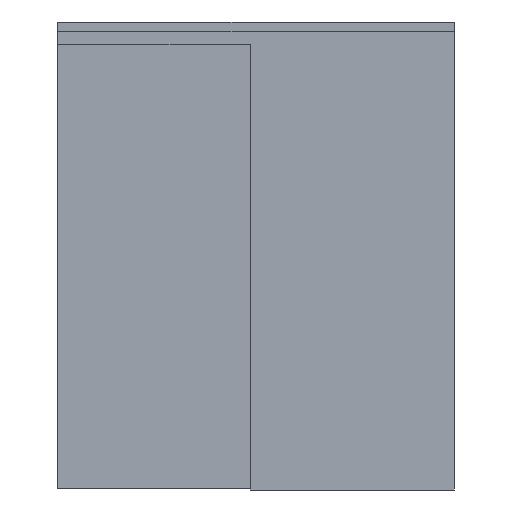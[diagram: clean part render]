
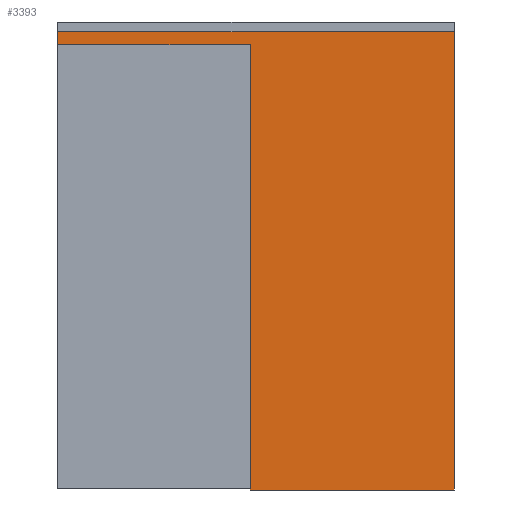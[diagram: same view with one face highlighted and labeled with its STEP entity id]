
A CAD part, front view. The second image highlights one B-rep face of the part: STEP entity #3393.
In plain terms, the highlighted planar face has unit normal (0, -1, 0).
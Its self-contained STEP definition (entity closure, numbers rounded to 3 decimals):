
#3393=ADVANCED_FACE('',(#6909),#6910,.F.);
#6909=FACE_OUTER_BOUND('',#10448,.T.);
#6910=PLANE('',#10449);
#10448=EDGE_LOOP('',(#19709,#19710,#19711,#19712,#19713,#19714));
#10449=AXIS2_PLACEMENT_3D('',#19715,#19716,#19717);
#19709=ORIENTED_EDGE('',*,*,#24473,.T.);
#19710=ORIENTED_EDGE('',*,*,#24463,.F.);
#19711=ORIENTED_EDGE('',*,*,#24467,.F.);
#19712=ORIENTED_EDGE('',*,*,#24471,.T.);
#19713=ORIENTED_EDGE('',*,*,#24474,.F.);
#19714=ORIENTED_EDGE('',*,*,#24475,.F.);
#19715=CARTESIAN_POINT('',(0.0,-44.,2333.0));
#19716=DIRECTION('',(0.0,1.0,-0.0));
#19717=DIRECTION('',(0.0,0.0,1.0));
#24463=EDGE_CURVE('',#30027,#30022,#30029,.T.);
#24467=EDGE_CURVE('',#30033,#30027,#30035,.T.);
#24471=EDGE_CURVE('',#30033,#30039,#30041,.T.);
#24473=EDGE_CURVE('',#30043,#30022,#30044,.T.);
#24474=EDGE_CURVE('',#30045,#30039,#30046,.T.);
#24475=EDGE_CURVE('',#30043,#30045,#30047,.T.);
#30022=VERTEX_POINT('',#37575);
#30027=VERTEX_POINT('',#37582);
#30029=LINE('',#37585,#37586);
#30033=VERTEX_POINT('',#37591);
#30035=LINE('',#37594,#37595);
#30039=VERTEX_POINT('',#37600);
#30041=LINE('',#37603,#37604);
#30043=VERTEX_POINT('',#37606);
#30044=LINE('',#37607,#37608);
#30045=VERTEX_POINT('',#37609);
#30046=LINE('',#37610,#37611);
#30047=LINE('',#37612,#37613);
#37575=CARTESIAN_POINT('',(995.0,-44.,2301.0));
#37582=CARTESIAN_POINT('',(995.0,-44.,0.0));
#37585=CARTESIAN_POINT('',(995.0,-44.,7.0));
#37586=VECTOR('',#42938,1.0);
#37591=CARTESIAN_POINT('',(2050.0,-44.,0.0));
#37594=CARTESIAN_POINT('',(1327.5,-44.,0.0));
#37595=VECTOR('',#42941,1.0);
#37600=CARTESIAN_POINT('',(2050.0,-44.,2368.0));
#37603=CARTESIAN_POINT('',(2050.0,-44.,7.0));
#37604=VECTOR('',#42944,1.0);
#37606=CARTESIAN_POINT('',(0.0,-44.,2301.0));
#37607=CARTESIAN_POINT('',(0.0,-44.,2301.0));
#37608=VECTOR('',#42945,1.0);
#37609=CARTESIAN_POINT('',(0.0,-44.,2368.0));
#37610=CARTESIAN_POINT('',(1270.0,-44.,2368.0));
#37611=VECTOR('',#42946,1.0);
#37612=CARTESIAN_POINT('',(0.0,-44.,2301.0));
#37613=VECTOR('',#42947,1.0);
#42938=DIRECTION('',(0.0,0.0,1.0));
#42941=DIRECTION('',(-1.0,0.0,0.0));
#42944=DIRECTION('',(0.0,0.0,1.0));
#42945=DIRECTION('',(1.0,0.0,0.0));
#42946=DIRECTION('',(1.0,0.0,0.0));
#42947=DIRECTION('',(0.0,0.0,1.0));
